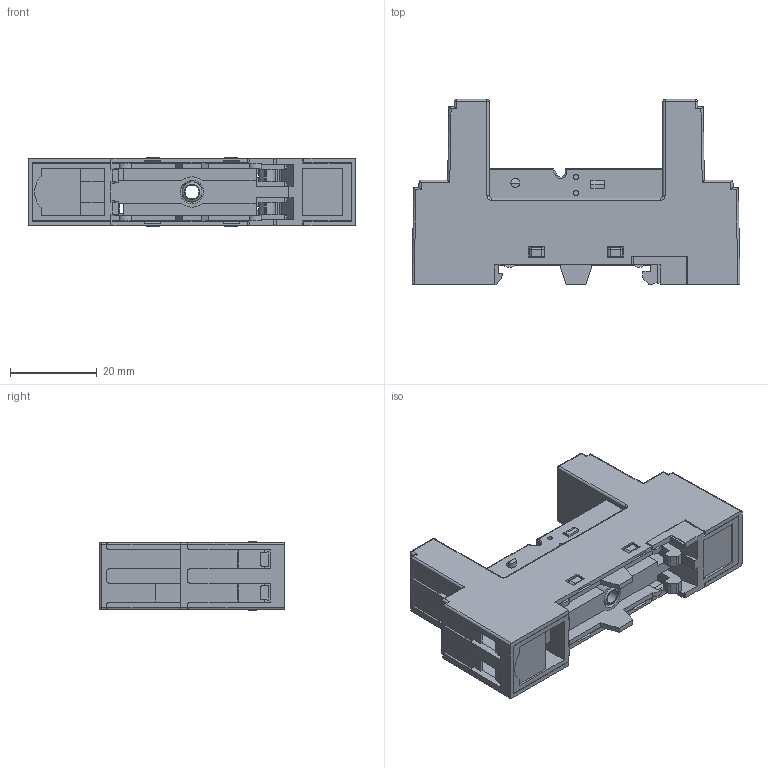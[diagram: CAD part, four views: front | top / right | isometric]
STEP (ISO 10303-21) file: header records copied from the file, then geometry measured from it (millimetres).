
FILE_DESCRIPTION(/* description */ (''),/* implementation_level */ '2;1');
FILE_NAME(/* name */ '14f-1z-c2.stp',/* time_stamp */ '2024-02-26T15:55:59+08:00',/* author */ (''),/* organization */ (''),/* preprocessor_version */ 'ST-DEVELOPER v11',/* originating_system */ 'SIEMENS UGS NX 6.0',/* authorisation */ '');
FILE_SCHEMA (('CONFIG_CONTROL_DESIGN'));
Length unit declared in the file: millimetre
Products named in the file (1): 14f-1z-c2
Bounding box: 75.5 x 42.6 x 15.9 mm (x, y, z)
Volume: 21144.2 mm3; surface area: 22546.3 mm2
Topology: 12 solids, 14 shells, 832 faces, 2257 edges, 1447 vertices
Faces by surface type: plane 619, cylinder 166, bspline 17, sphere 16, extrusion 8, torus 6
Full cylindrical faces by diameter (mm): 1.1 x4, 2 x5, 2.1 x2, 2.5 x5, 2.7 x5, 3.2 x1, 3.6 x2, 5.4 x6, 5.9 x1
Entity records: 39209 total; most frequent: CARTESIAN_POINT 18348, ORIENTED_EDGE 4374, DIRECTION 4096, EDGE_CURVE 2187, VECTOR 1760, LINE 1752, VERTEX_POINT 1431, AXIS2_PLACEMENT_3D 1168
